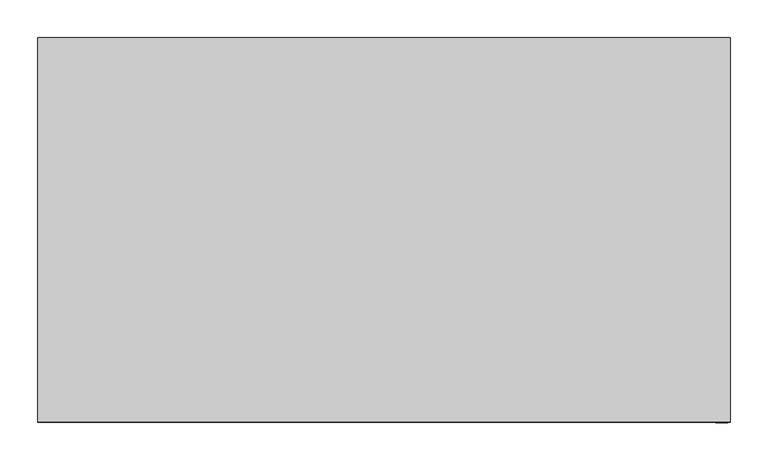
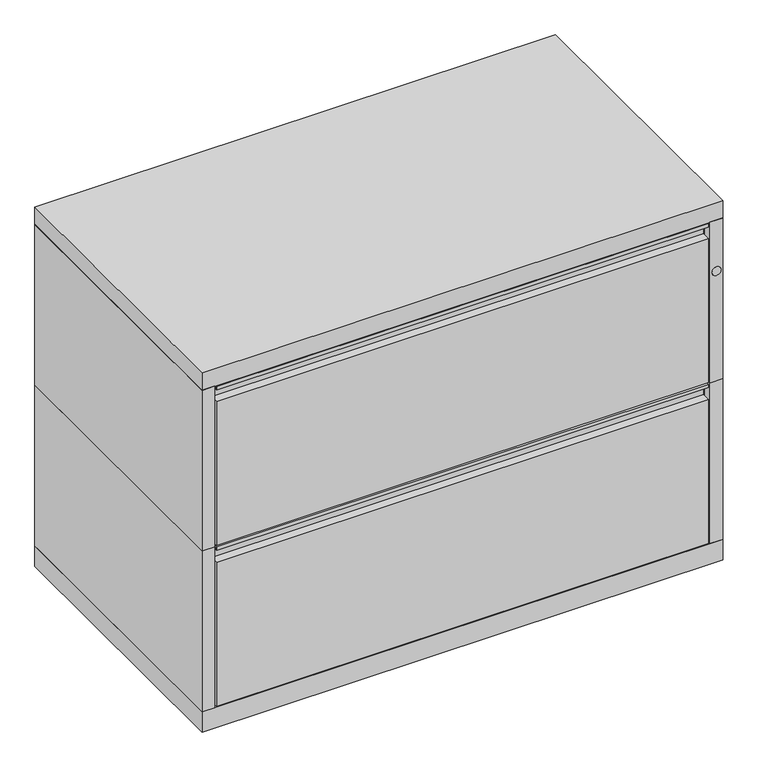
"""IFC4 building model written with IfcOpenShell, lengths in millimetres: furniture geometry, HermanMiller_MeridianFiling_26_Standard-PullFreeStandingLateralFile : 2 11 3/4H x 20D x 36W."""

from ifc_helpers import new_model, si_unit, point, frame, frame_2d, origin, origin_with_axes, place, context, project, spatial, polyline, circle_curve, trimmed, segment, composite_curve, outline, extrude, source, transform, mapped, element, save


def furniture_14b2469c(model_context):
    return source(origin(), model_context, "Body", "SweptSolid", [
        extrude(outline(polyline([(-254.0, 633.4252), (-237.3376, 633.4252), (-237.3376, 338.1375), (-254.0, 338.1375), (-254.0, 605.2439), (-238.8616, 605.2439), (-238.8616, 631.8885), (-252.476, 631.8885), (-252.476, 627.0625), (-254.0, 627.0625), (-254.0, 633.4252)])), frame((-431.8, 0.0, 0.0), z_axis=(1.0, 0.0, 0.0), x_axis=(0.0, 1.0, 0.0)), (0.0, 0.0, 1.0), 863.6),
        extrude(outline(polyline([(457.2, 254.0), (457.2, -254.0), (434.975, -254.0), (434.975, -237.3376), (-434.975, -237.3376), (-434.975, -254.0), (-457.2, -254.0), (-457.2, 254.0), (457.2, 254.0)])), frame((0.0, 0.0, 336.55), z_axis=(0.0, 0.0, 1.0), x_axis=(1.0, 0.0, 0.0)), (0.0, 0.0, 1.0), 298.45),
        extrude(outline(polyline([(-254.0, 334.9752), (-237.3376, 334.9752), (-237.3376, 39.6875), (-254.0, 39.6875), (-254.0, 306.7939), (-238.8616, 306.7939), (-238.8616, 333.4385), (-252.476, 333.4385), (-252.476, 328.6125), (-254.0, 328.6125), (-254.0, 334.9752)])), frame((-431.8, 0.0, 0.0), z_axis=(1.0, 0.0, 0.0), x_axis=(0.0, 1.0, 0.0)), (0.0, 0.0, 1.0), 863.6),
        extrude(outline(polyline([(457.2, 254.0), (457.2, -254.0), (434.975, -254.0), (434.975, -237.3376), (-434.975, -237.3376), (-434.975, -254.0), (-457.2, -254.0), (-457.2, 254.0), (457.2, 254.0)])), frame((0.0, 0.0, 38.1), z_axis=(0.0, 0.0, 1.0), x_axis=(1.0, 0.0, 0.0)), (0.0, 0.0, 1.0), 298.45),
        extrude(outline(polyline([(457.2, 254.0), (457.2, -254.0), (-457.2, -254.0), (-457.2, 254.0), (457.2, 254.0)])), frame((0.0, 0.0, 635.0), z_axis=(0.0, 0.0, 1.0), x_axis=(1.0, 0.0, 0.0)), (0.0, 0.0, 1.0), 31.75),
        extrude(outline(polyline([(457.2, 254.0), (457.2, -254.0), (-457.2, -254.0), (-457.2, 254.0), (457.2, 254.0)])), origin_with_axes(), (0.0, 0.0, 1.0), 38.1),
        extrude(outline(composite_curve([segment(trimmed(circle_curve(frame_2d((540.639, 446.0748)), 8.001), [point((540.639, 454.0758))], [point((540.639, 438.0738))], False, "CARTESIAN"), True, "CONTINUOUS"), segment(trimmed(circle_curve(frame_2d((540.639, 446.0748)), 8.001), [point((540.639, 438.0738))], [point((540.639, 454.0758))], False, "CARTESIAN"), True, "CONTINUOUS")], self_intersect=False)), frame((0.0, -254.79502, 0.0), z_axis=(0.0, 1.0, 0.0), x_axis=(0.0, 0.0, 1.0)), (0.0, 0.0, 1.0), 0.79502),
    ])


if __name__ == "__main__":
    model = new_model("IFC4")
    model_context = context("Model", 3, world=origin())
    ifc_project = project(units=[si_unit("LENGTHUNIT", "METRE", prefix="MILLI")], contexts=[model_context])
    site = spatial("IfcSite", under=ifc_project)
    building = spatial("IfcBuilding", under=site)
    placement = place(None, origin())
    furniture_shape = furniture_14b2469c(model_context)
    element("IfcFurniture", 1, ObjectType="HermanMiller_MeridianFiling_26_Standard-PullFreeStandingLateralFile : 2 11 3/4H x 20D x 36W", at=placement, inside=building, context=model_context, shape_type="MappedRepresentation", body=[
        mapped(furniture_shape, transform((0.0, 0.0, 0.0), x_axis=(1.0, 0.0, 0.0), y_axis=(0.0, 1.0, 0.0), z_axis=(0.0, 0.0, 1.0))),
    ])
    save(model, "model.ifc")
